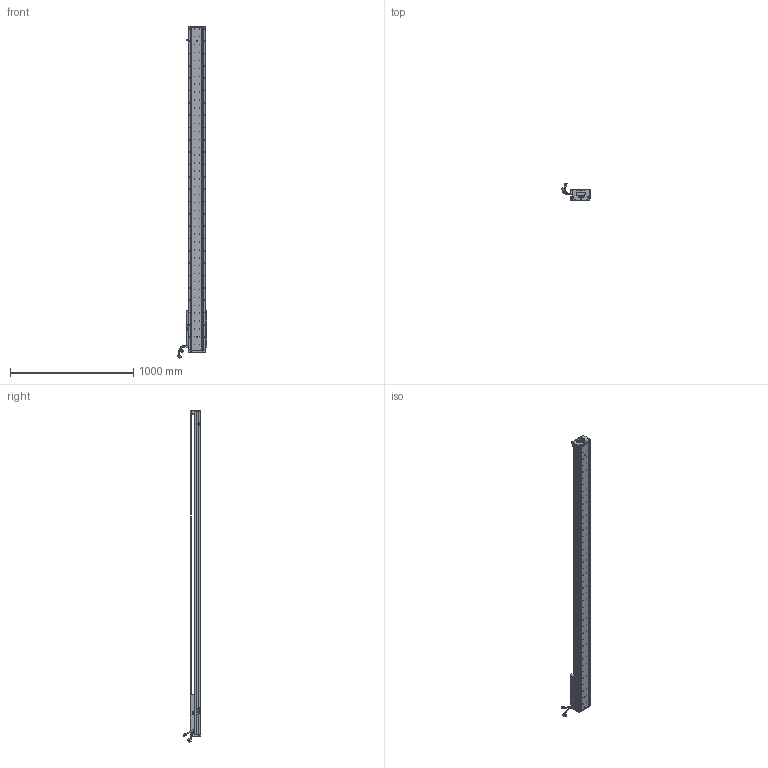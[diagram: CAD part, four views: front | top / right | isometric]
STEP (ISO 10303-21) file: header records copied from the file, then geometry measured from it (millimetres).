
FILE_DESCRIPTION (( 'STEP AP203' ), '1' );
FILE_NAME ('Z4-RY140D-1-L500-B-K.SLDASM_2250.step', '2021-05-17T08:19:07', ( '盈信电脑' ), ( '东莞市道滘镇水果街19号' ), 'SwSTEP 2.0', 'SolidWorks 2016', '' );
FILE_SCHEMA (( 'CONFIG_CONTROL_DESIGN' ));
Length unit declared in the file: millimetre
Products named in the file (36): 140雄赽晤鎢ん堤盄; LABEL; Z4-RY140圉猾敕臏賑輸(21遴); Z-140詩湍傷裔啣; Z-RY140感应器672光电感应片; HOLDER0; SCREW-M1.6-3; LABEL-Part-1; COVER-Part-1; SCALE-Part-2; SCALE-Part-1; 榋妏寠巭燃_暯_M2_2; COVER; SCREW-M1.6-1; Z4-RY140-L500直线电机模组底座_2250; SEAL; 080黍杅芛假蚾釱21遴; SCREW-M1.7; PSLH080_PSLF2; HARNESS-Part-1; 覜茼ん672; SHIELDPLATE; 140-Z-臏賑輸盄裔(21遴); PBU_SHEET; Z4-RY140D-1-L500-B-K.SLDASM_2250; 詩湍奻揤裔; Z4-RY140-L500詩湍100mm遵_2250; HARNESS; SCREW-M1.6-2; HARNESS-Part-2; 詩湍狟揤裔; SCALE; SCREW-M1.7-1; SCREW-M1.6; 140蚥薯蝶輸; SEAL-Part-1
Assembly tree (41 placements, depth 4):
  Z4-RY140D-1-L500-B-K.SLDASM_2250
    Z4-RY140-L500直线电机模组底座_2250
    Z-RY140感应器672光电感应片
    Z4-RY140圉猾敕臏賑輸(21遴)
    覜茼ん672  x3
    Z4-RY140-L500詩湍100mm遵_2250
    PSLH080_PSLF2
      SCALE
        SCALE-Part-1
        SCALE-Part-2
      HARNESS
        HARNESS-Part-1
        HARNESS-Part-2
      LABEL
        LABEL-Part-1
      COVER
        COVER-Part-1
      SEAL
        SEAL-Part-1
      榋妏寠巭燃_暯_M2_2
      SHIELDPLATE
      SCREW-M1.7
      SCREW-M1.7-1
      PBU_SHEET
      SCREW-M1.6
      SCREW-M1.6-1
      SCREW-M1.6-2
      SCREW-M1.6-3
      HOLDER0
    080黍杅芛假蚾釱21遴
    140-Z-臏賑輸盄裔(21遴)
    Z-140詩湍傷裔啣  x2
    詩湍狟揤裔  x2
    詩湍奻揤裔  x2
    140蚥薯蝶輸  x2
    140雄赽晤鎢ん堤盄
Bounding box: 239.79 x 143.88 x 2690.87 mm (x, y, z)
Volume: 8810991.4 mm3; surface area: 2276976.8 mm2
Topology: 36 solids, 36 shells, 4196 faces, 11430 edges, 7243 vertices
Faces by surface type: cylinder 2284, plane 1384, cone 406, torus 69, bspline 53
Entity records: 133646 total; most frequent: CARTESIAN_POINT 37949, ORIENTED_EDGE 19772, DIRECTION 18250, EDGE_CURVE 9886, AXIS2_PLACEMENT_3D 6792, VERTEX_POINT 6411, LINE 4666, VECTOR 4666
